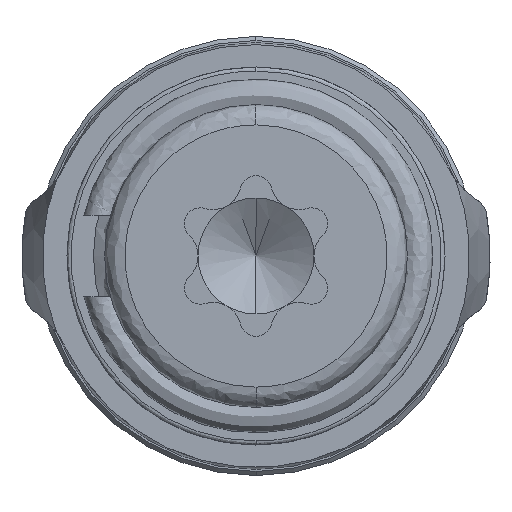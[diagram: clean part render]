
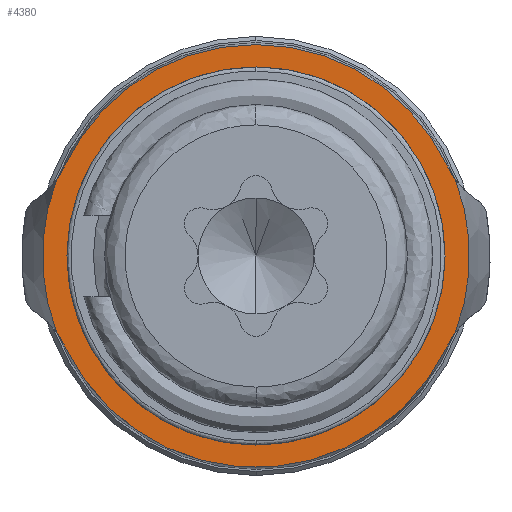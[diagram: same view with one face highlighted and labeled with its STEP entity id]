
A CAD part, front view. The second image highlights one B-rep face of the part: STEP entity #4380.
In plain terms, the highlighted planar face has unit normal (0, -1, 0).
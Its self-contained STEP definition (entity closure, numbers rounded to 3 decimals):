
#11 = DIRECTION ( 'NONE',  ( 0., 0., -1. ) ) ;
#23 = DIRECTION ( 'NONE',  ( 0., -1., 0. ) ) ;
#32 = DIRECTION ( 'NONE',  ( 0., 0., 1. ) ) ;
#42 = CARTESIAN_POINT ( 'NONE',  ( 0., 10.05, 0. ) ) ;
#45 = EDGE_CURVE ( 'NONE', #3946, #4388, #4566, .T. ) ;
#344 = CARTESIAN_POINT ( 'NONE',  ( 0., 10.05, 0. ) ) ;
#378 = CIRCLE ( 'NONE', #2667, 5.252 ) ;
#428 = DIRECTION ( 'NONE',  ( 0., 1., 0. ) ) ;
#441 = DIRECTION ( 'NONE',  ( 0., 0., 1. ) ) ;
#452 = ORIENTED_EDGE ( 'NONE', *, *, #1665, .T. ) ;
#490 = AXIS2_PLACEMENT_3D ( 'NONE', #344, #428, #441 ) ;
#554 = AXIS2_PLACEMENT_3D ( 'NONE', #3736, #3387, #3159 ) ;
#748 = AXIS2_PLACEMENT_3D ( 'NONE', #4859, #4447, #4029 ) ;
#749 = ORIENTED_EDGE ( 'NONE', *, *, #1703, .F. ) ;
#750 = AXIS2_PLACEMENT_3D ( 'NONE', #42, #23, #11 ) ;
#941 = ORIENTED_EDGE ( 'NONE', *, *, #5117, .T. ) ;
#950 = ORIENTED_EDGE ( 'NONE', *, *, #45, .F. ) ;
#991 = ORIENTED_EDGE ( 'NONE', *, *, #4592, .T. ) ;
#1081 = ORIENTED_EDGE ( 'NONE', *, *, #3024, .F. ) ;
#1127 = VERTEX_POINT ( 'NONE', #3192 ) ;
#1220 = VERTEX_POINT ( 'NONE', #1348 ) ;
#1348 = CARTESIAN_POINT ( 'NONE',  ( 4.705, 10.05, 2.215 ) ) ;
#1430 = FACE_BOUND ( 'NONE', #2984, .T. ) ;
#1485 = CIRCLE ( 'NONE', #2411, 5.2 ) ;
#1503 = FACE_OUTER_BOUND ( 'NONE', #2648, .T. ) ;
#1598 = CARTESIAN_POINT ( 'NONE',  ( -4.903, 10.05, 1.882 ) ) ;
#1665 = EDGE_CURVE ( 'NONE', #2278, #4353, #5389, .T. ) ;
#1669 = DIRECTION ( 'NONE',  ( 0., 0., -1. ) ) ;
#1682 = DIRECTION ( 'NONE',  ( 0., -1., 0. ) ) ;
#1689 = CARTESIAN_POINT ( 'NONE',  ( 0., 10.05, 0. ) ) ;
#1703 = EDGE_CURVE ( 'NONE', #2278, #3281, #3751, .T. ) ;
#1722 = DIRECTION ( 'NONE',  ( 0., 0., 1. ) ) ;
#1741 = DIRECTION ( 'NONE',  ( 0., 1., 0. ) ) ;
#1750 = DIRECTION ( 'NONE',  ( 0., -1., 0. ) ) ;
#1758 = CARTESIAN_POINT ( 'NONE',  ( 0., 10.05, 0. ) ) ;
#1792 = PLANE ( 'NONE',  #2378 ) ;
#1857 = CARTESIAN_POINT ( 'NONE',  ( 0., 10.05, 0. ) ) ;
#1887 = CARTESIAN_POINT ( 'NONE',  ( 0., 10.05, -4.65 ) ) ;
#1909 = CIRCLE ( 'NONE', #748, 2. ) ;
#1916 = CARTESIAN_POINT ( 'NONE',  ( 4.903, 10.05, -1.882 ) ) ;
#1944 = CIRCLE ( 'NONE', #750, 4.65 ) ;
#2099 = CIRCLE ( 'NONE', #3102, 5.2 ) ;
#2231 = AXIS2_PLACEMENT_3D ( 'NONE', #5055, #5047, #5039 ) ;
#2232 = AXIS2_PLACEMENT_3D ( 'NONE', #5133, #5127, #5118 ) ;
#2278 = VERTEX_POINT ( 'NONE', #4295 ) ;
#2378 = AXIS2_PLACEMENT_3D ( 'NONE', #1689, #1682, #1669 ) ;
#2411 = AXIS2_PLACEMENT_3D ( 'NONE', #1758, #1741, #1722 ) ;
#2506 = DIRECTION ( 'NONE',  ( 0., 1., 0. ) ) ;
#2620 = DIRECTION ( 'NONE',  ( 0., 1., 0. ) ) ;
#2648 = EDGE_LOOP ( 'NONE', ( #1081, #941, #950, #991, #749, #452, #5010, #5139, #5054 ) ) ;
#2667 = AXIS2_PLACEMENT_3D ( 'NONE', #1857, #1750, #32 ) ;
#2735 = CARTESIAN_POINT ( 'NONE',  ( -4.705, 10.05, -2.215 ) ) ;
#2818 = AXIS2_PLACEMENT_3D ( 'NONE', #4276, #3906, #3621 ) ;
#2913 = DIRECTION ( 'NONE',  ( 0., 0., 1. ) ) ;
#2935 = CARTESIAN_POINT ( 'NONE',  ( 0., 10.05, 0. ) ) ;
#2984 = EDGE_LOOP ( 'NONE', ( #5189, #5061 ) ) ;
#3019 = VERTEX_POINT ( 'NONE', #1887 ) ;
#3024 = EDGE_CURVE ( 'NONE', #3643, #4088, #2099, .T. ) ;
#3102 = AXIS2_PLACEMENT_3D ( 'NONE', #4724, #2620, #3862 ) ;
#3159 = DIRECTION ( 'NONE',  ( 0., 0., 1. ) ) ;
#3192 = CARTESIAN_POINT ( 'NONE',  ( 4.903, 10.05, 1.882 ) ) ;
#3281 = VERTEX_POINT ( 'NONE', #2735 ) ;
#3367 = VERTEX_POINT ( 'NONE', #4460 ) ;
#3386 = EDGE_CURVE ( 'NONE', #1127, #1220, #3642, .T. ) ;
#3387 = DIRECTION ( 'NONE',  ( 0., 1., 0. ) ) ;
#3621 = DIRECTION ( 'NONE',  ( 0., 0., 1. ) ) ;
#3622 = CIRCLE ( 'NONE', #2232, 2. ) ;
#3642 = CIRCLE ( 'NONE', #2818, 2. ) ;
#3643 = VERTEX_POINT ( 'NONE', #5398 ) ;
#3736 = CARTESIAN_POINT ( 'NONE',  ( 6.514, 10.05, -3.067 ) ) ;
#3751 = CIRCLE ( 'NONE', #490, 5.2 ) ;
#3790 = CIRCLE ( 'NONE', #2231, 4.65 ) ;
#3838 = EDGE_CURVE ( 'NONE', #4353, #1127, #378, .T. ) ;
#3862 = DIRECTION ( 'NONE',  ( 0., 0., 1. ) ) ;
#3906 = DIRECTION ( 'NONE',  ( 0., 1., 0. ) ) ;
#3946 = VERTEX_POINT ( 'NONE', #5222 ) ;
#4029 = DIRECTION ( 'NONE',  ( 0., 0., 1. ) ) ;
#4068 = CARTESIAN_POINT ( 'NONE',  ( 0., 10.05, 5.2 ) ) ;
#4088 = VERTEX_POINT ( 'NONE', #4068 ) ;
#4276 = CARTESIAN_POINT ( 'NONE',  ( 6.514, 10.05, 3.067 ) ) ;
#4282 = AXIS2_PLACEMENT_3D ( 'NONE', #2935, #2506, #2913 ) ;
#4295 = CARTESIAN_POINT ( 'NONE',  ( 4.705, 10.05, -2.215 ) ) ;
#4353 = VERTEX_POINT ( 'NONE', #1916 ) ;
#4365 = EDGE_CURVE ( 'NONE', #4088, #1220, #1485, .T. ) ;
#4380 = ADVANCED_FACE ( 'NONE', ( #1503, #1430 ), #1792, .T. ) ;
#4388 = VERTEX_POINT ( 'NONE', #1598 ) ;
#4447 = DIRECTION ( 'NONE',  ( 0., 1., 0. ) ) ;
#4460 = CARTESIAN_POINT ( 'NONE',  ( 0., 10.05, 4.65 ) ) ;
#4566 = CIRCLE ( 'NONE', #4282, 5.252 ) ;
#4583 = EDGE_CURVE ( 'NONE', #3019, #3367, #1944, .T. ) ;
#4592 = EDGE_CURVE ( 'NONE', #3946, #3281, #1909, .T. ) ;
#4724 = CARTESIAN_POINT ( 'NONE',  ( 0., 10.05, 0. ) ) ;
#4859 = CARTESIAN_POINT ( 'NONE',  ( -6.514, 10.05, -3.067 ) ) ;
#5010 = ORIENTED_EDGE ( 'NONE', *, *, #3838, .T. ) ;
#5039 = DIRECTION ( 'NONE',  ( 0., 0., -1. ) ) ;
#5047 = DIRECTION ( 'NONE',  ( 0., -1., 0. ) ) ;
#5054 = ORIENTED_EDGE ( 'NONE', *, *, #4365, .F. ) ;
#5055 = CARTESIAN_POINT ( 'NONE',  ( 0., 10.05, 0. ) ) ;
#5061 = ORIENTED_EDGE ( 'NONE', *, *, #5143, .F. ) ;
#5117 = EDGE_CURVE ( 'NONE', #3643, #4388, #3622, .T. ) ;
#5118 = DIRECTION ( 'NONE',  ( 0., 0., 1. ) ) ;
#5127 = DIRECTION ( 'NONE',  ( 0., 1., 0. ) ) ;
#5133 = CARTESIAN_POINT ( 'NONE',  ( -6.514, 10.05, 3.067 ) ) ;
#5139 = ORIENTED_EDGE ( 'NONE', *, *, #3386, .T. ) ;
#5143 = EDGE_CURVE ( 'NONE', #3367, #3019, #3790, .T. ) ;
#5189 = ORIENTED_EDGE ( 'NONE', *, *, #4583, .F. ) ;
#5222 = CARTESIAN_POINT ( 'NONE',  ( -4.903, 10.05, -1.882 ) ) ;
#5389 = CIRCLE ( 'NONE', #554, 2. ) ;
#5398 = CARTESIAN_POINT ( 'NONE',  ( -4.705, 10.05, 2.215 ) ) ;
